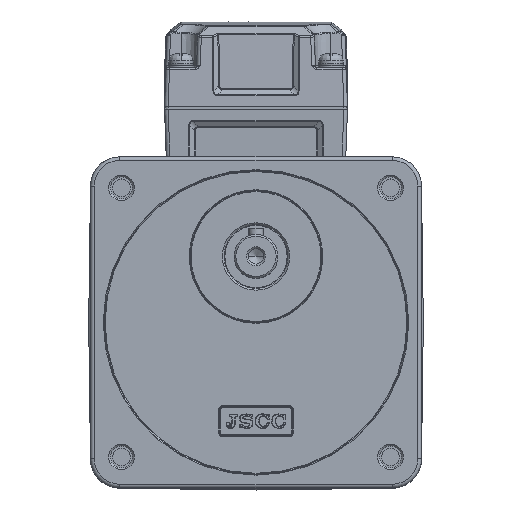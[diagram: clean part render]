
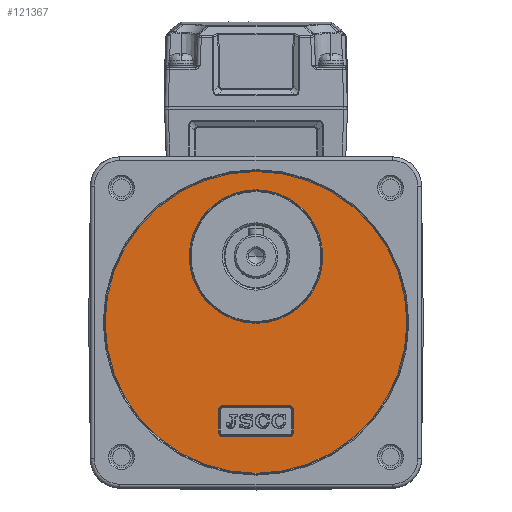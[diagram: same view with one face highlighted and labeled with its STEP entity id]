
A CAD part, top view. The second image highlights one B-rep face of the part: STEP entity #121367.
In plain terms, the highlighted planar face has unit normal (0, 0, 1).
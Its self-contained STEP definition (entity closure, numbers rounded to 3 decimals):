
#121232=CARTESIAN_POINT('',(41.25,0.,-1.2));
#121233=VERTEX_POINT('',#121232);
#121243=CARTESIAN_POINT('',(-41.25,0.,-1.2));
#121244=VERTEX_POINT('',#121243);
#121252=CARTESIAN_POINT('',(0.,0.,-1.2));
#121253=DIRECTION('',(-1.,0.,0.));
#121254=DIRECTION('',(0.,0.,-1.));
#121255=AXIS2_PLACEMENT_3D('',#121252,#121254,#121253);
#121256=CIRCLE('',#121255,41.25);
#121257=EDGE_CURVE('',#121244,#121233,#121256,.T.);
#121262=CARTESIAN_POINT('',(0.,0.,-1.2));
#121263=DIRECTION('',(-1.,0.,0.));
#121264=DIRECTION('',(0.,0.,1.));
#121265=AXIS2_PLACEMENT_3D('',#121262,#121264,#121263);
#121266=PLANE('',#121265);
#121267=CARTESIAN_POINT('',(0.,0.,-1.2));
#121268=DIRECTION('',(-1.,0.,0.));
#121269=DIRECTION('',(-0.,0.,1.));
#121270=AXIS2_PLACEMENT_3D('',#121267,#121269,#121268);
#121271=CIRCLE('',#121270,41.25);
#121272=EDGE_CURVE('',#121244,#121233,#121271,.T.);
#121273=ORIENTED_EDGE('E74',*,*,#121272,.T.);
#121274=ORIENTED_EDGE('E74',*,*,#121257,.F.);
#121275=EDGE_LOOP('',(#121273,#121274));
#121276=FACE_OUTER_BOUND('',#121275,.T.);
#121277=CARTESIAN_POINT('',(10.25,-24.,-1.2));
#121278=VERTEX_POINT('',#121277);
#121279=CARTESIAN_POINT('',(10.25,-30.,-1.2));
#121280=VERTEX_POINT('',#121279);
#121281=CARTESIAN_POINT('',(10.25,-24.,-1.2));
#121282=DIRECTION('',(0.,-1.,0.));
#121283=VECTOR('',#121282,6.);
#121284=LINE('',#121281,#121283);
#121285=EDGE_CURVE('',#121278,#121280,#121284,.T.);
#121286=ORIENTED_EDGE('E75',*,*,#121285,.T.);
#121287=CARTESIAN_POINT('',(9.,-31.25,-1.2));
#121288=VERTEX_POINT('',#121287);
#121289=CARTESIAN_POINT('',(9.,-30.,-1.2));
#121290=DIRECTION('',(1.,0.,0.));
#121291=DIRECTION('',(-0.,0.,-1.));
#121292=AXIS2_PLACEMENT_3D('',#121289,#121291,#121290);
#121293=CIRCLE('',#121292,1.25);
#121294=EDGE_CURVE('',#121280,#121288,#121293,.T.);
#121295=ORIENTED_EDGE('E76',*,*,#121294,.T.);
#121296=CARTESIAN_POINT('',(-9.,-31.25,-1.2));
#121297=VERTEX_POINT('',#121296);
#121298=CARTESIAN_POINT('',(9.,-31.25,-1.2));
#121299=DIRECTION('',(-1.,0.,0.));
#121300=VECTOR('',#121299,18.);
#121301=LINE('',#121298,#121300);
#121302=EDGE_CURVE('',#121288,#121297,#121301,.T.);
#121303=ORIENTED_EDGE('E77',*,*,#121302,.T.);
#121304=CARTESIAN_POINT('',(-10.25,-30.,-1.2));
#121305=VERTEX_POINT('',#121304);
#121306=CARTESIAN_POINT('',(-9.,-30.,-1.2));
#121307=DIRECTION('',(0.,-1.,0.));
#121308=DIRECTION('',(0.,0.,-1.));
#121309=AXIS2_PLACEMENT_3D('',#121306,#121308,#121307);
#121310=CIRCLE('',#121309,1.25);
#121311=EDGE_CURVE('',#121297,#121305,#121310,.T.);
#121312=ORIENTED_EDGE('E78',*,*,#121311,.T.);
#121313=CARTESIAN_POINT('',(-10.25,-24.,-1.2));
#121314=VERTEX_POINT('',#121313);
#121315=CARTESIAN_POINT('',(-10.25,-30.,-1.2));
#121316=DIRECTION('',(0.,1.,0.));
#121317=VECTOR('',#121316,6.);
#121318=LINE('',#121315,#121317);
#121319=EDGE_CURVE('',#121305,#121314,#121318,.T.);
#121320=ORIENTED_EDGE('E79',*,*,#121319,.T.);
#121321=CARTESIAN_POINT('',(-9.,-22.75,-1.2));
#121322=VERTEX_POINT('',#121321);
#121323=CARTESIAN_POINT('',(-9.,-24.,-1.2));
#121324=DIRECTION('',(-1.,0.,0.));
#121325=DIRECTION('',(0.,0.,-1.));
#121326=AXIS2_PLACEMENT_3D('',#121323,#121325,#121324);
#121327=CIRCLE('',#121326,1.25);
#121328=EDGE_CURVE('',#121314,#121322,#121327,.T.);
#121329=ORIENTED_EDGE('E80',*,*,#121328,.T.);
#121330=CARTESIAN_POINT('',(9.,-22.75,-1.2));
#121331=VERTEX_POINT('',#121330);
#121332=CARTESIAN_POINT('',(-9.,-22.75,-1.2));
#121333=DIRECTION('',(1.,0.,0.));
#121334=VECTOR('',#121333,18.);
#121335=LINE('',#121332,#121334);
#121336=EDGE_CURVE('',#121322,#121331,#121335,.T.);
#121337=ORIENTED_EDGE('E81',*,*,#121336,.T.);
#121338=CARTESIAN_POINT('',(9.,-24.,-1.2));
#121339=DIRECTION('',(0.,1.,0.));
#121340=DIRECTION('',(0.,0.,-1.));
#121341=AXIS2_PLACEMENT_3D('',#121338,#121340,#121339);
#121342=CIRCLE('',#121341,1.25);
#121343=EDGE_CURVE('',#121331,#121278,#121342,.T.);
#121344=ORIENTED_EDGE('E82',*,*,#121343,.T.);
#121345=EDGE_LOOP('',(#121286,#121295,#121303,#121312,#121320,#121329,#121337,#121344));
#121346=FACE_BOUND('',#121345,.T.);
#121347=CARTESIAN_POINT('',(18.25,18.,-1.2));
#121348=VERTEX_POINT('',#121347);
#121349=CARTESIAN_POINT('',(-18.25,18.,-1.2));
#121350=VERTEX_POINT('',#121349);
#121351=CARTESIAN_POINT('',(0.,18.,-1.2));
#121352=DIRECTION('',(1.,0.,0.));
#121353=DIRECTION('',(0.,0.,-1.));
#121354=AXIS2_PLACEMENT_3D('',#121351,#121353,#121352);
#121355=CIRCLE('',#121354,18.25);
#121356=EDGE_CURVE('',#121348,#121350,#121355,.T.);
#121357=ORIENTED_EDGE('E83',*,*,#121356,.T.);
#121358=CARTESIAN_POINT('',(0.,18.,-1.2));
#121359=DIRECTION('',(-1.,0.,0.));
#121360=DIRECTION('',(0.,0.,-1.));
#121361=AXIS2_PLACEMENT_3D('',#121358,#121360,#121359);
#121362=CIRCLE('',#121361,18.25);
#121363=EDGE_CURVE('',#121350,#121348,#121362,.T.);
#121364=ORIENTED_EDGE('E84',*,*,#121363,.T.);
#121365=EDGE_LOOP('',(#121357,#121364));
#121366=FACE_BOUND('',#121365,.T.);
#121367=ADVANCED_FACE('F24',(#121276,#121346,#121366),#121266,.T.);
